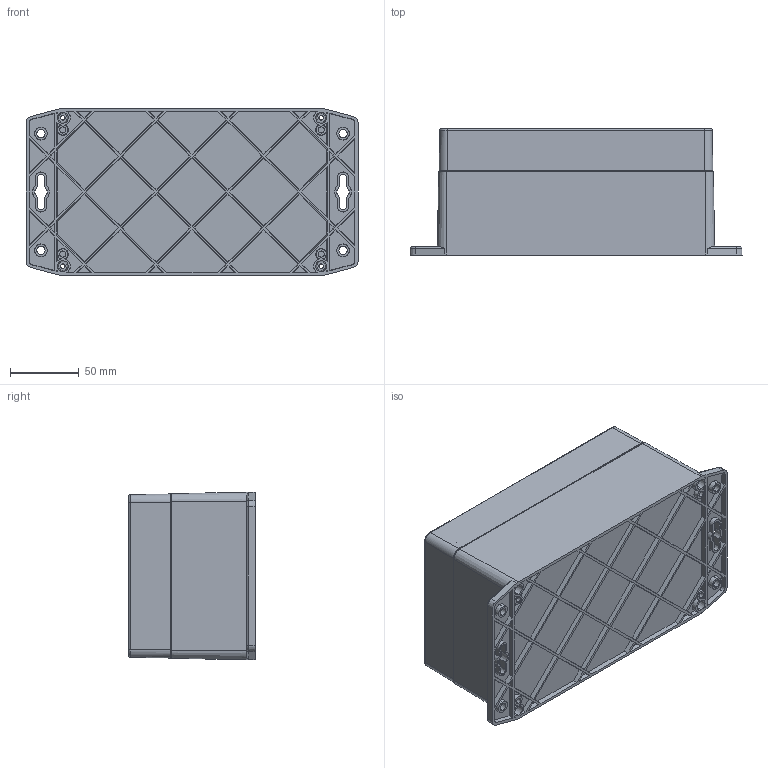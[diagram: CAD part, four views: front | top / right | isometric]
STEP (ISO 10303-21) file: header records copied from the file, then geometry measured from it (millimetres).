
FILE_DESCRIPTION (( 'STEP AP203' ), '1' );
FILE_NAME ('SF-242-0-0.STEP', '2023-05-04T10:48:42', ( '' ), ( '' ), 'SwSTEP 2.0', 'SolidWorks 2021', '' );
FILE_SCHEMA (( 'CONFIG_CONTROL_DESIGN' ));
Length unit declared in the file: millimetre
Products named in the file (3): SF-240-P-1; SF-242-0-0; SE-242-P-1
Assembly tree (2 placements, depth 2):
  SF-242-0-0
    SF-240-P-1
    SE-242-P-1
Bounding box: 241.78 x 91.99 x 122.15 mm (x, y, z)
Volume: 415995.6 mm3; surface area: 252888 mm2
Topology: 2 solids, 2 shells, 816 faces, 2065 edges, 1366 vertices
Faces by surface type: plane 467, cone 208, cylinder 74, bspline 63, torus 4
Entity records: 27301 total; most frequent: CARTESIAN_POINT 7254, ORIENTED_EDGE 4130, DIRECTION 3949, EDGE_CURVE 2065, VERTEX_POINT 1366, AXIS2_PLACEMENT_3D 1329, LINE 1291, VECTOR 1291
